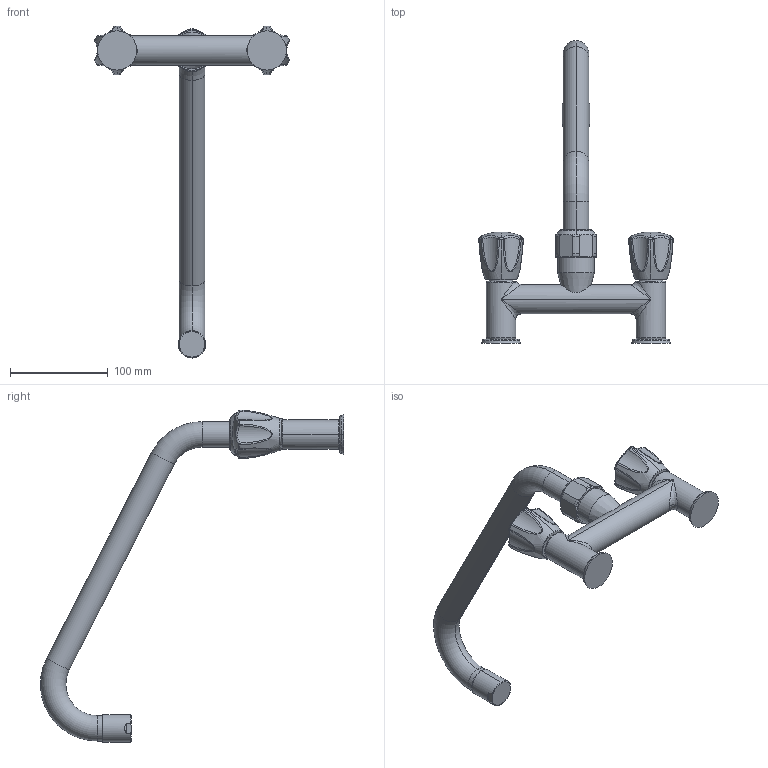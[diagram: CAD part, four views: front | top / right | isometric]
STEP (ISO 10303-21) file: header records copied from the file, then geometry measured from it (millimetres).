
FILE_DESCRIPTION((''),'2;1');
FILE_NAME('K_24_42_E1_000C35','2012-01-04T',('HEF'),(''),'PRO/ENGINEER BY PARAMETRIC TECHNOLOGY CORPORATION, 2011080','PRO/ENGINEER BY PARAMETRIC TECHNOLOGY CORPORATION, 2011080','');
FILE_SCHEMA(('AUTOMOTIVE_DESIGN_CC2 { 1 2 10303 214 -1 1 5 2 }'));
Length unit declared in the file: millimetre
Products named in the file (1): K_24_42_E1_000C35
Bounding box: 198.47 x 309.46 x 338.96 mm (x, y, z)
Volume: 614829.9 mm3; surface area: 87289.2 mm2
Topology: 1 solids, 1 shells, 262 faces, 610 edges, 366 vertices
Faces by surface type: plane 88, torus 50, cylinder 42, bspline 40, sphere 28, cone 10, extrusion 4
Entity records: 16265 total; most frequent: CARTESIAN_POINT 8507, ORIENTED_EDGE 1220, DIRECTION 1188, EDGE_CURVE 610, AXIS2_PLACEMENT_3D 478, VERTEX_POINT 366, FILL_AREA_STYLE_COLOUR 282, FILL_AREA_STYLE 282
